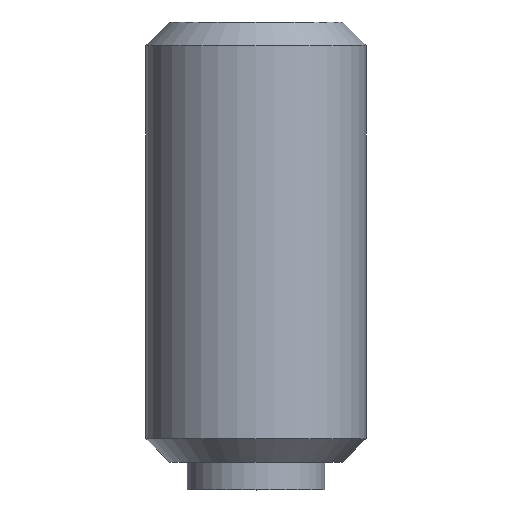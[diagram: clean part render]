
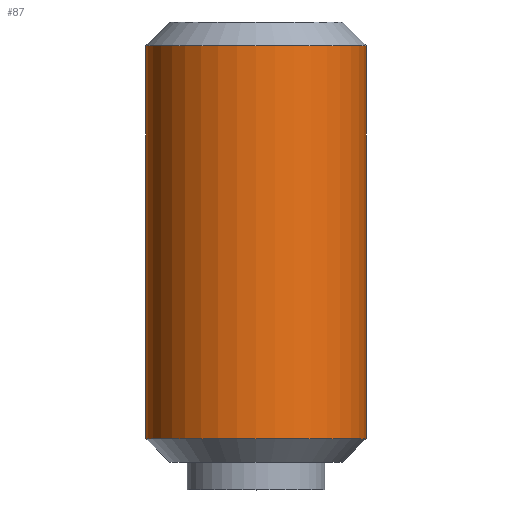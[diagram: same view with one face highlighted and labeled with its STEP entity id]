
A CAD part, top view. The second image highlights one B-rep face of the part: STEP entity #87.
In plain terms, the highlighted cylindrical face has radius 2 mm (diameter 4 mm), a full revolution.
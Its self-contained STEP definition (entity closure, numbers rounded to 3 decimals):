
#87 = ADVANCED_FACE( '', ( #118, #119 ), #120, .T. );
#118 = FACE_OUTER_BOUND( '', #152, .T. );
#119 = FACE_OUTER_BOUND( '', #153, .T. );
#120 = CYLINDRICAL_SURFACE( '', #154, 2. );
#152 = EDGE_LOOP( '', ( #238 ) );
#153 = EDGE_LOOP( '', ( #239 ) );
#154 = AXIS2_PLACEMENT_3D( '', #240, #241, #242 );
#238 = ORIENTED_EDGE( '', *, *, #270, .F. );
#239 = ORIENTED_EDGE( '', *, *, #271, .T. );
#240 = CARTESIAN_POINT( '', ( 0., 0., 0. ) );
#241 = DIRECTION( '', ( 0., 1., 0. ) );
#242 = DIRECTION( '', ( 0., 0., -1. ) );
#270 = EDGE_CURVE( '', #310, #310, #311, .T. );
#271 = EDGE_CURVE( '', #312, #312, #313, .T. );
#310 = VERTEX_POINT( '', #370 );
#311 = CIRCLE( '', #371, 2. );
#312 = VERTEX_POINT( '', #372 );
#313 = CIRCLE( '', #373, 2. );
#370 = CARTESIAN_POINT( '', ( 0., 0.93, -2. ) );
#371 = AXIS2_PLACEMENT_3D( '', #404, #405, #406 );
#372 = CARTESIAN_POINT( '', ( 0., 8.071, -2. ) );
#373 = AXIS2_PLACEMENT_3D( '', #407, #408, #409 );
#404 = CARTESIAN_POINT( '', ( 0., 0.93, 0. ) );
#405 = DIRECTION( '', ( 0., -1., 0. ) );
#406 = DIRECTION( '', ( 0., 0., -1. ) );
#407 = CARTESIAN_POINT( '', ( 0., 8.071, 0. ) );
#408 = DIRECTION( '', ( 0., -1., 0. ) );
#409 = DIRECTION( '', ( 0., 0., -1. ) );
